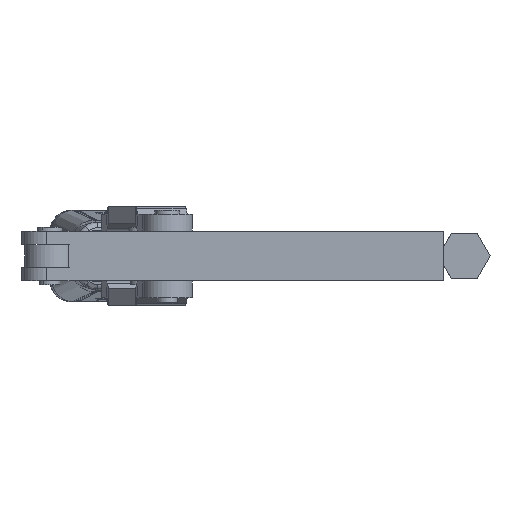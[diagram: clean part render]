
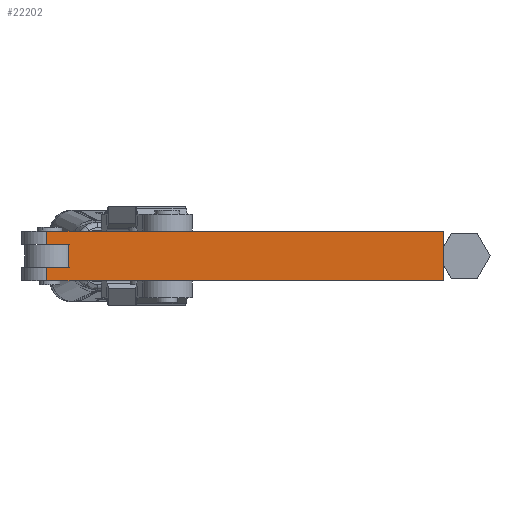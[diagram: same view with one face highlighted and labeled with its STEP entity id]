
A CAD part, front view. The second image highlights one B-rep face of the part: STEP entity #22202.
In plain terms, the highlighted planar face has unit normal (0, -1, 0).
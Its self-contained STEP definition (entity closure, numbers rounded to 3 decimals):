
#1594 = EDGE_CURVE ( 'NONE', #13361, #2109, #21475, .T. ) ;
#1750 = VERTEX_POINT ( 'NONE', #10873 ) ;
#1916 = CARTESIAN_POINT ( 'NONE',  ( -9.525, -9.525, 9.525 ) ) ;
#1969 = VECTOR ( 'NONE', #9888, 1000. ) ;
#2102 = DIRECTION ( 'NONE',  ( 0., 1., 0. ) ) ;
#2109 = VERTEX_POINT ( 'NONE', #8684 ) ;
#4762 = CARTESIAN_POINT ( 'NONE',  ( -161., -9.525, 9.525 ) ) ;
#5411 = LINE ( 'NONE', #23767, #22381 ) ;
#5467 = VERTEX_POINT ( 'NONE', #24084 ) ;
#5924 = DIRECTION ( 'NONE',  ( 0., 0., -1. ) ) ;
#6366 = DIRECTION ( 'NONE',  ( 1., 0., 0. ) ) ;
#6833 = VERTEX_POINT ( 'NONE', #7662 ) ;
#6989 = DIRECTION ( 'NONE',  ( 0., 0., -1. ) ) ;
#6998 = EDGE_CURVE ( 'NONE', #10212, #6833, #5411, .T. ) ;
#7509 = VERTEX_POINT ( 'NONE', #9413 ) ;
#7662 = CARTESIAN_POINT ( 'NONE',  ( -9.525, -9.525, 4.5 ) ) ;
#8053 = CARTESIAN_POINT ( 'NONE',  ( -9.525, -9.525, 9.525 ) ) ;
#8669 = AXIS2_PLACEMENT_3D ( 'NONE', #15310, #2102, #17549 ) ;
#8684 = CARTESIAN_POINT ( 'NONE',  ( -9.525, -9.525, 9.525 ) ) ;
#9413 = CARTESIAN_POINT ( 'NONE',  ( -9.525, -9.525, -9.525 ) ) ;
#9687 = LINE ( 'NONE', #8053, #14841 ) ;
#9700 = VECTOR ( 'NONE', #6366, 1000. ) ;
#9888 = DIRECTION ( 'NONE',  ( 0., 0., -1. ) ) ;
#10096 = EDGE_CURVE ( 'NONE', #1750, #7509, #18155, .T. ) ;
#10212 = VERTEX_POINT ( 'NONE', #24001 ) ;
#10873 = CARTESIAN_POINT ( 'NONE',  ( -161., -9.525, -9.525 ) ) ;
#11562 = ORIENTED_EDGE ( 'NONE', *, *, #16398, .F. ) ;
#11612 = LINE ( 'NONE', #21183, #28547 ) ;
#11658 = ORIENTED_EDGE ( 'NONE', *, *, #25678, .F. ) ;
#11841 = ORIENTED_EDGE ( 'NONE', *, *, #6998, .T. ) ;
#12386 = CARTESIAN_POINT ( 'NONE',  ( -17.7, -9.525, -4.5 ) ) ;
#13361 = VERTEX_POINT ( 'NONE', #17771 ) ;
#14468 = LINE ( 'NONE', #4762, #24900 ) ;
#14614 = CARTESIAN_POINT ( 'NONE',  ( -17.7, -9.525, -4.5 ) ) ;
#14669 = FACE_OUTER_BOUND ( 'NONE', #22586, .T. ) ;
#14841 = VECTOR ( 'NONE', #5924, 1000. ) ;
#15310 = CARTESIAN_POINT ( 'NONE',  ( -9.525, -9.525, 9.525 ) ) ;
#15472 = EDGE_CURVE ( 'NONE', #13361, #1750, #14468, .T. ) ;
#15760 = LINE ( 'NONE', #14614, #21676 ) ;
#16398 = EDGE_CURVE ( 'NONE', #2109, #6833, #9687, .T. ) ;
#16854 = DIRECTION ( 'NONE',  ( 0., 0., 1. ) ) ;
#16935 = ORIENTED_EDGE ( 'NONE', *, *, #26252, .T. ) ;
#16936 = CARTESIAN_POINT ( 'NONE',  ( -9.525, -9.525, -9.525 ) ) ;
#17549 = DIRECTION ( 'NONE',  ( -1., 0., 0. ) ) ;
#17771 = CARTESIAN_POINT ( 'NONE',  ( -161., -9.525, 9.525 ) ) ;
#18155 = LINE ( 'NONE', #16936, #23352 ) ;
#18908 = LINE ( 'NONE', #27563, #1969 ) ;
#19618 = ORIENTED_EDGE ( 'NONE', *, *, #15472, .T. ) ;
#20574 = ORIENTED_EDGE ( 'NONE', *, *, #21050, .F. ) ;
#21032 = ORIENTED_EDGE ( 'NONE', *, *, #10096, .T. ) ;
#21050 = EDGE_CURVE ( 'NONE', #5467, #7509, #18908, .T. ) ;
#21183 = CARTESIAN_POINT ( 'NONE',  ( -17.7, -9.525, -4.5 ) ) ;
#21475 = LINE ( 'NONE', #1916, #9700 ) ;
#21676 = VECTOR ( 'NONE', #16854, 1000. ) ;
#22202 = ADVANCED_FACE ( 'NONE', ( #14669 ), #26362, .F. ) ;
#22381 = VECTOR ( 'NONE', #25991, 1000. ) ;
#22586 = EDGE_LOOP ( 'NONE', ( #11658, #16935, #11841, #11562, #26042, #19618, #21032, #20574 ) ) ;
#23352 = VECTOR ( 'NONE', #23623, 1000. ) ;
#23623 = DIRECTION ( 'NONE',  ( 1., 0., 0. ) ) ;
#23758 = VERTEX_POINT ( 'NONE', #12386 ) ;
#23767 = CARTESIAN_POINT ( 'NONE',  ( -17.7, -9.525, 4.5 ) ) ;
#24001 = CARTESIAN_POINT ( 'NONE',  ( -17.7, -9.525, 4.5 ) ) ;
#24084 = CARTESIAN_POINT ( 'NONE',  ( -9.525, -9.525, -4.5 ) ) ;
#24900 = VECTOR ( 'NONE', #6989, 1000. ) ;
#25678 = EDGE_CURVE ( 'NONE', #23758, #5467, #11612, .T. ) ;
#25991 = DIRECTION ( 'NONE',  ( 1., 0., 0. ) ) ;
#26042 = ORIENTED_EDGE ( 'NONE', *, *, #1594, .F. ) ;
#26252 = EDGE_CURVE ( 'NONE', #23758, #10212, #15760, .T. ) ;
#26362 = PLANE ( 'NONE',  #8669 ) ;
#27563 = CARTESIAN_POINT ( 'NONE',  ( -9.525, -9.525, 9.525 ) ) ;
#27793 = DIRECTION ( 'NONE',  ( 1., 0., 0. ) ) ;
#28547 = VECTOR ( 'NONE', #27793, 1000. ) ;
